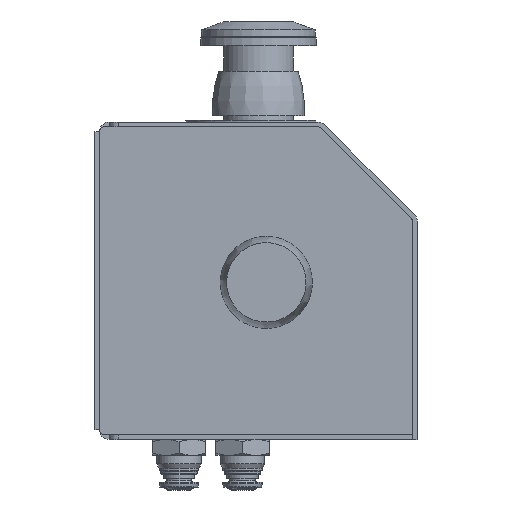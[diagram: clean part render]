
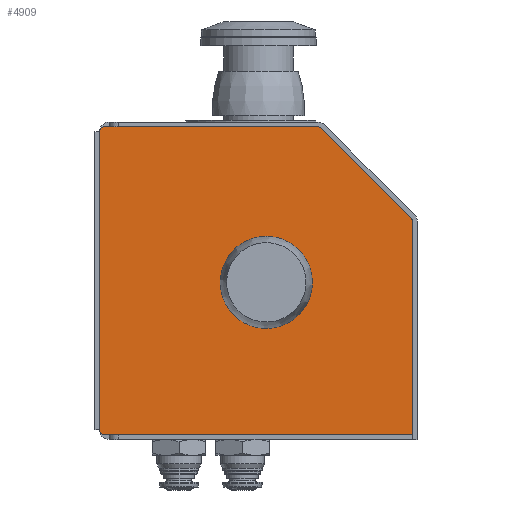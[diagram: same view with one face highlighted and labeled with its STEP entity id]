
A CAD part, front view. The second image highlights one B-rep face of the part: STEP entity #4909.
In plain terms, the highlighted planar face has unit normal (0, -1, 0).
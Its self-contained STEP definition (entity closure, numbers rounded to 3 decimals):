
#314=CIRCLE('',#6068,1.5);
#316=CIRCLE('',#6071,1.5);
#317=CIRCLE('',#6075,11.25);
#318=CIRCLE('',#6076,1.5);
#319=CIRCLE('',#6077,1.5);
#320=CIRCLE('',#6078,1.5);
#535=LINE('',#10499,#692);
#537=LINE('',#10503,#694);
#540=LINE('',#10513,#697);
#541=LINE('',#10517,#698);
#542=LINE('',#10520,#699);
#692=VECTOR('',#7072,1000.);
#694=VECTOR('',#7076,1000.);
#697=VECTOR('',#7085,1000.);
#698=VECTOR('',#7088,1000.);
#699=VECTOR('',#7091,1000.);
#1679=ORIENTED_EDGE('',*,*,#2555,.T.);
#1680=ORIENTED_EDGE('',*,*,#2556,.T.);
#1681=ORIENTED_EDGE('',*,*,#2557,.F.);
#1682=ORIENTED_EDGE('',*,*,#2558,.T.);
#1683=ORIENTED_EDGE('',*,*,#2559,.F.);
#1684=ORIENTED_EDGE('',*,*,#2560,.T.);
#1685=ORIENTED_EDGE('',*,*,#2550,.F.);
#1686=ORIENTED_EDGE('',*,*,#2543,.T.);
#1687=ORIENTED_EDGE('',*,*,#2561,.T.);
#1688=ORIENTED_EDGE('',*,*,#2547,.T.);
#1689=ORIENTED_EDGE('',*,*,#2552,.T.);
#2543=EDGE_CURVE('',#3268,#3267,#314,.T.);
#2547=EDGE_CURVE('',#3272,#3271,#316,.T.);
#2550=EDGE_CURVE('',#3268,#3274,#535,.T.);
#2552=EDGE_CURVE('',#3271,#3275,#537,.T.);
#2555=EDGE_CURVE('',#3277,#3278,#317,.T.);
#2556=EDGE_CURVE('',#3278,#3277,#318,.T.);
#2557=EDGE_CURVE('',#3279,#3275,#540,.T.);
#2558=EDGE_CURVE('',#3279,#3280,#319,.T.);
#2559=EDGE_CURVE('',#3281,#3280,#541,.T.);
#2560=EDGE_CURVE('',#3281,#3274,#320,.T.);
#2561=EDGE_CURVE('',#3267,#3272,#542,.T.);
#3267=VERTEX_POINT('',#10483);
#3268=VERTEX_POINT('',#10485);
#3271=VERTEX_POINT('',#10492);
#3272=VERTEX_POINT('',#10494);
#3274=VERTEX_POINT('',#10500);
#3275=VERTEX_POINT('',#10504);
#3277=VERTEX_POINT('',#10510);
#3278=VERTEX_POINT('',#10511);
#3279=VERTEX_POINT('',#10514);
#3280=VERTEX_POINT('',#10516);
#3281=VERTEX_POINT('',#10518);
#4121=EDGE_LOOP('',(#1679,#1680));
#4122=EDGE_LOOP('',(#1681,#1682,#1683,#1684,#1685,#1686,#1687,#1688,#1689));
#4547=FACE_BOUND('',#4121,.T.);
#4548=FACE_BOUND('',#4122,.T.);
#4677=PLANE('',#6074);
#4909=ADVANCED_FACE('',(#4547,#4548),#4677,.T.);
#6068=AXIS2_PLACEMENT_3D('',#10484,#7058,#7059);
#6071=AXIS2_PLACEMENT_3D('',#10493,#7066,#7067);
#6074=AXIS2_PLACEMENT_3D('',#10508,#7079,#7080);
#6075=AXIS2_PLACEMENT_3D('',#10509,#7081,#7082);
#6076=AXIS2_PLACEMENT_3D('',#10512,#7083,#7084);
#6077=AXIS2_PLACEMENT_3D('',#10515,#7086,#7087);
#6078=AXIS2_PLACEMENT_3D('',#10519,#7089,#7090);
#7058=DIRECTION('',(0.,-1.,0.));
#7059=DIRECTION('',(0.,0.,-1.));
#7066=DIRECTION('',(0.,-1.,0.));
#7067=DIRECTION('',(0.,0.,-1.));
#7072=DIRECTION('',(1.,0.,0.));
#7076=DIRECTION('',(1.,0.,0.));
#7079=DIRECTION('',(0.,-1.,0.));
#7080=DIRECTION('',(0.,0.,-1.));
#7081=DIRECTION('',(0.,1.,0.));
#7082=DIRECTION('',(0.,0.,1.));
#7083=DIRECTION('',(0.,1.,0.));
#7084=DIRECTION('',(0.,0.,-1.));
#7085=DIRECTION('',(0.,0.,-1.));
#7086=DIRECTION('',(0.,-1.,0.));
#7087=DIRECTION('',(0.,0.,-1.));
#7088=DIRECTION('',(0.707,0.,-0.707));
#7089=DIRECTION('',(0.,-1.,0.));
#7090=DIRECTION('',(0.,0.,-1.));
#7091=DIRECTION('',(0.,0.,-1.));
#10483=CARTESIAN_POINT('',(1.5,13.5,98.5));
#10484=CARTESIAN_POINT('',(3.,13.5,98.5));
#10485=CARTESIAN_POINT('',(3.,13.5,100.));
#10492=CARTESIAN_POINT('',(3.,13.5,3.));
#10493=CARTESIAN_POINT('',(3.,13.5,4.5));
#10494=CARTESIAN_POINT('',(1.5,13.5,4.5));
#10499=CARTESIAN_POINT('',(1.5,13.5,100.));
#10500=CARTESIAN_POINT('',(70.257,13.5,100.));
#10503=CARTESIAN_POINT('',(1.5,13.5,3.));
#10504=CARTESIAN_POINT('',(100.,13.5,3.));
#10508=CARTESIAN_POINT('',(1.5,13.5,3.));
#10509=CARTESIAN_POINT('',(54.,13.5,51.));
#10510=CARTESIAN_POINT('',(55.497,13.5,62.15));
#10511=CARTESIAN_POINT('',(52.503,13.5,62.15));
#10512=CARTESIAN_POINT('',(54.,13.5,62.25));
#10513=CARTESIAN_POINT('',(100.,13.5,70.879));
#10514=CARTESIAN_POINT('',(100.,13.5,70.257));
#10515=CARTESIAN_POINT('',(98.5,13.5,70.257));
#10516=CARTESIAN_POINT('',(99.561,13.5,71.318));
#10517=CARTESIAN_POINT('',(70.879,13.5,100.));
#10518=CARTESIAN_POINT('',(71.318,13.5,99.561));
#10519=CARTESIAN_POINT('',(70.257,13.5,98.5));
#10520=CARTESIAN_POINT('',(1.5,13.5,103.));
